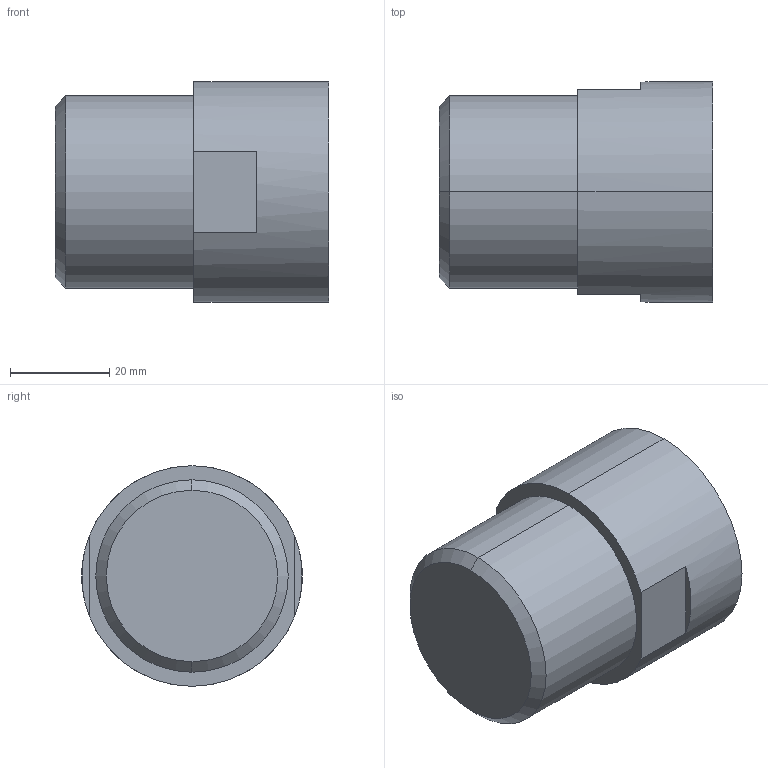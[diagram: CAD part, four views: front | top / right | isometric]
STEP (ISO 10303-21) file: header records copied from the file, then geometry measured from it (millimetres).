
FILE_DESCRIPTION (( 'STEP AP214' ), '1' );
FILE_NAME ('16-fnpt.STEP', '2012-12-03T16:31:34', ( '' ), ( '' ), 'SwSTEP 2.0', 'SolidWorks 2012', '' );
FILE_SCHEMA (( 'AUTOMOTIVE_DESIGN' ));
Length unit declared in the file: inch
Products named in the file (1): 16-fnpt
Bounding box: 55.12 x 44.45 x 44.45 mm (x, y, z)
Volume: 61757.9 mm3; surface area: 11808.6 mm2
Topology: 1 solids, 1 shells, 18 faces, 38 edges, 24 vertices
Faces by surface type: plane 8, cylinder 6, cone 4
Entity records: 569 total; most frequent: DIRECTION 96, CARTESIAN_POINT 81, ORIENTED_EDGE 76, AXIS2_PLACEMENT_3D 39, EDGE_CURVE 38, VERTEX_POINT 24, CIRCLE 20, EDGE_LOOP 20
